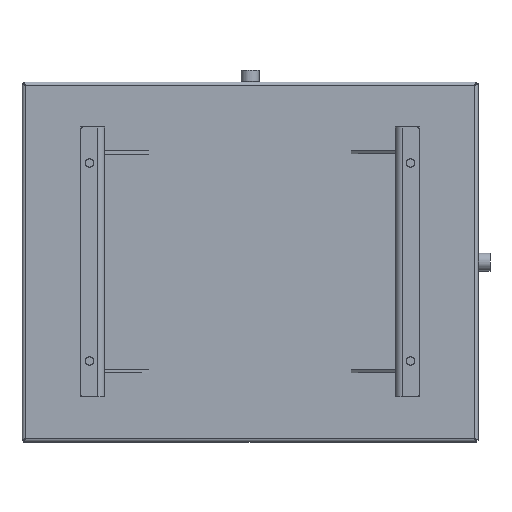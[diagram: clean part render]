
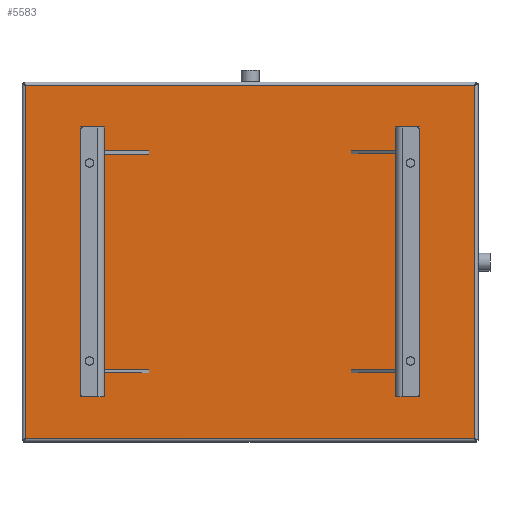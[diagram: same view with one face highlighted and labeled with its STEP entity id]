
A CAD part, front view. The second image highlights one B-rep face of the part: STEP entity #5583.
In plain terms, the highlighted planar face has unit normal (0, -1, 0).
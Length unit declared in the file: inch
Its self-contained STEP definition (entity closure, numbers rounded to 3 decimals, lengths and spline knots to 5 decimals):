
#547 = ORIENTED_EDGE ( 'NONE', *, *, #4815, .T. ) ;
#637 = VECTOR ( 'NONE', #691, 39.37008 ) ;
#658 = DIRECTION ( 'NONE',  ( 0., 0., -1. ) ) ;
#662 = CARTESIAN_POINT ( 'NONE',  ( -25.4245, -0.9029, 14.02058 ) ) ;
#686 = CARTESIAN_POINT ( 'NONE',  ( -25.54615, -0.9029, -15.54786 ) ) ;
#691 = DIRECTION ( 'NONE',  ( 1., 0., 0. ) ) ;
#713 = DIRECTION ( 'NONE',  ( -1., 0., 0. ) ) ;
#714 = CARTESIAN_POINT ( 'NONE',  ( 12.14394, -0.9029, 13.89894 ) ) ;
#726 = CARTESIAN_POINT ( 'NONE',  ( 12.0223, -0.9029, -15.66951 ) ) ;
#742 = DIRECTION ( 'NONE',  ( 0., 0., 1. ) ) ;
#751 = LINE ( 'NONE', #662, #5353 ) ;
#872 = LINE ( 'NONE', #726, #1707 ) ;
#901 = ORIENTED_EDGE ( 'NONE', *, *, #4819, .T. ) ;
#1091 = VECTOR ( 'NONE', #713, 39.37008 ) ;
#1707 = VECTOR ( 'NONE', #742, 39.37008 ) ;
#1872 = FACE_OUTER_BOUND ( 'NONE', #2139, .T. ) ;
#1880 = CARTESIAN_POINT ( 'NONE',  ( 12.0223, -0.9029, 13.89894 ) ) ;
#1963 = VERTEX_POINT ( 'NONE', #2443 ) ;
#2097 = DIRECTION ( 'NONE',  ( 0., 0., -1. ) ) ;
#2105 = DIRECTION ( 'NONE',  ( 0., -1., 0. ) ) ;
#2113 = PLANE ( 'NONE',  #2682 ) ;
#2138 = CARTESIAN_POINT ( 'NONE',  ( -25.7011, -0.9029, -15.82446 ) ) ;
#2139 = EDGE_LOOP ( 'NONE', ( #5096, #547, #901, #5523 ) ) ;
#2248 = CARTESIAN_POINT ( 'NONE',  ( -25.4245, -0.9029, 13.89894 ) ) ;
#2329 = VERTEX_POINT ( 'NONE', #2248 ) ;
#2443 = CARTESIAN_POINT ( 'NONE',  ( 12.0223, -0.9029, -15.54786 ) ) ;
#2583 = VERTEX_POINT ( 'NONE', #1880 ) ;
#2682 = AXIS2_PLACEMENT_3D ( 'NONE', #2138, #2105, #2097 ) ;
#2764 = LINE ( 'NONE', #686, #637 ) ;
#3577 = CARTESIAN_POINT ( 'NONE',  ( -25.4245, -0.9029, -15.54786 ) ) ;
#4103 = LINE ( 'NONE', #714, #1091 ) ;
#4490 = VERTEX_POINT ( 'NONE', #3577 ) ;
#4815 = EDGE_CURVE ( 'NONE', #2583, #2329, #4103, .T. ) ;
#4816 = EDGE_CURVE ( 'NONE', #1963, #2583, #872, .T. ) ;
#4819 = EDGE_CURVE ( 'NONE', #2329, #4490, #751, .T. ) ;
#4825 = EDGE_CURVE ( 'NONE', #4490, #1963, #2764, .T. ) ;
#5096 = ORIENTED_EDGE ( 'NONE', *, *, #4816, .T. ) ;
#5353 = VECTOR ( 'NONE', #658, 39.37008 ) ;
#5523 = ORIENTED_EDGE ( 'NONE', *, *, #4825, .T. ) ;
#5583 = ADVANCED_FACE ( 'NONE', ( #1872 ), #2113, .T. ) ;
